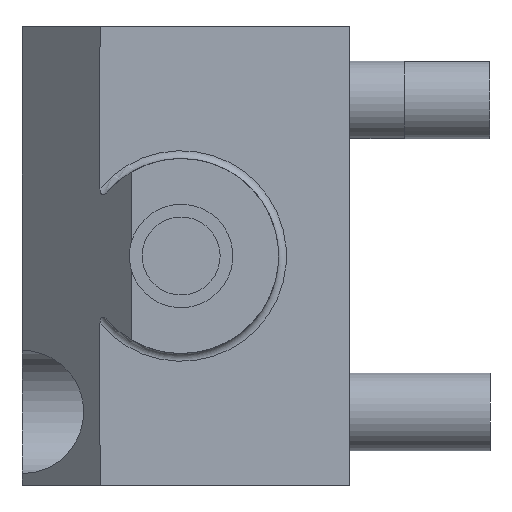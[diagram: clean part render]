
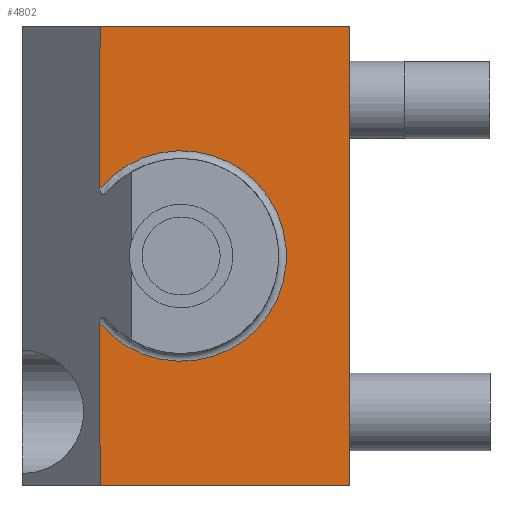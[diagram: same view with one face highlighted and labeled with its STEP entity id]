
A CAD part, left-side view. The second image highlights one B-rep face of the part: STEP entity #4802.
In plain terms, the highlighted planar face has unit normal (-1, 0, 0).
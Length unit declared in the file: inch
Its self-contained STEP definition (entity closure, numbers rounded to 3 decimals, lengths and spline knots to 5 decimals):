
#1 = CARTESIAN_POINT ( 'NONE',  ( -0.85, 0.26, -0.21519 ) ) ;
#31 = DIRECTION ( 'NONE',  ( -1., 0., 0. ) ) ;
#75 = VERTEX_POINT ( 'NONE', #683 ) ;
#162 = LINE ( 'NONE', #5245, #4239 ) ;
#259 = CARTESIAN_POINT ( 'NONE',  ( -0.85, 0.51, -0.735 ) ) ;
#276 = EDGE_CURVE ( 'NONE', #3061, #75, #162, .T. ) ;
#541 = AXIS2_PLACEMENT_3D ( 'NONE', #3320, #1420, #3288 ) ;
#675 = EDGE_CURVE ( 'NONE', #740, #1514, #1088, .T. ) ;
#683 = CARTESIAN_POINT ( 'NONE',  ( -0.85, -0.54, 0.735 ) ) ;
#689 = EDGE_LOOP ( 'NONE', ( #1028, #2485, #2203, #2812, #4976, #2497 ) ) ;
#693 = VERTEX_POINT ( 'NONE', #3194 ) ;
#740 = VERTEX_POINT ( 'NONE', #5432 ) ;
#741 = DIRECTION ( 'NONE',  ( 0., -1., 0. ) ) ;
#923 = CARTESIAN_POINT ( 'NONE',  ( -0.85, 0.26, -0.735 ) ) ;
#1018 = EDGE_CURVE ( 'NONE', #693, #1514, #1288, .T. ) ;
#1028 = ORIENTED_EDGE ( 'NONE', *, *, #1018, .F. ) ;
#1088 = CIRCLE ( 'NONE', #541, 0.3375 ) ;
#1288 = LINE ( 'NONE', #2234, #3022 ) ;
#1420 = DIRECTION ( 'NONE',  ( 1., 0., 0. ) ) ;
#1514 = VERTEX_POINT ( 'NONE', #1 ) ;
#2192 = CARTESIAN_POINT ( 'NONE',  ( -0.85, 0.51, -0.735 ) ) ;
#2203 = ORIENTED_EDGE ( 'NONE', *, *, #4869, .T. ) ;
#2234 = CARTESIAN_POINT ( 'NONE',  ( -0.85, 0.26, -0.735 ) ) ;
#2365 = CARTESIAN_POINT ( 'NONE',  ( -0.85, -0.54, -0.735 ) ) ;
#2379 = VECTOR ( 'NONE', #741, 39.37008 ) ;
#2485 = ORIENTED_EDGE ( 'NONE', *, *, #2929, .T. ) ;
#2497 = ORIENTED_EDGE ( 'NONE', *, *, #675, .T. ) ;
#2601 = AXIS2_PLACEMENT_3D ( 'NONE', #2192, #31, #3180 ) ;
#2730 = DIRECTION ( 'NONE',  ( 0., 0., 1. ) ) ;
#2801 = CARTESIAN_POINT ( 'NONE',  ( -0.85, -0.54, -0.735 ) ) ;
#2812 = ORIENTED_EDGE ( 'NONE', *, *, #276, .F. ) ;
#2929 = EDGE_CURVE ( 'NONE', #693, #4262, #3451, .T. ) ;
#3022 = VECTOR ( 'NONE', #2730, 39.37008 ) ;
#3061 = VERTEX_POINT ( 'NONE', #3957 ) ;
#3180 = DIRECTION ( 'NONE',  ( 0., -1., 0. ) ) ;
#3194 = CARTESIAN_POINT ( 'NONE',  ( -0.85, 0.26, -0.735 ) ) ;
#3288 = DIRECTION ( 'NONE',  ( 0., -1., 0. ) ) ;
#3320 = CARTESIAN_POINT ( 'NONE',  ( -0.85, 0., 0. ) ) ;
#3399 = EDGE_CURVE ( 'NONE', #740, #3061, #3608, .T. ) ;
#3451 = LINE ( 'NONE', #259, #2379 ) ;
#3608 = LINE ( 'NONE', #923, #3689 ) ;
#3689 = VECTOR ( 'NONE', #5373, 39.37008 ) ;
#3793 = LINE ( 'NONE', #2801, #5379 ) ;
#3957 = CARTESIAN_POINT ( 'NONE',  ( -0.85, 0.26, 0.735 ) ) ;
#4239 = VECTOR ( 'NONE', #4739, 39.37008 ) ;
#4262 = VERTEX_POINT ( 'NONE', #2365 ) ;
#4391 = PLANE ( 'NONE',  #2601 ) ;
#4739 = DIRECTION ( 'NONE',  ( 0., -1., 0. ) ) ;
#4802 = ADVANCED_FACE ( 'NONE', ( #5389 ), #4391, .T. ) ;
#4869 = EDGE_CURVE ( 'NONE', #4262, #75, #3793, .T. ) ;
#4976 = ORIENTED_EDGE ( 'NONE', *, *, #3399, .F. ) ;
#5245 = CARTESIAN_POINT ( 'NONE',  ( -0.85, 0.51, 0.735 ) ) ;
#5373 = DIRECTION ( 'NONE',  ( 0., 0., 1. ) ) ;
#5379 = VECTOR ( 'NONE', #5478, 39.37008 ) ;
#5389 = FACE_OUTER_BOUND ( 'NONE', #689, .T. ) ;
#5432 = CARTESIAN_POINT ( 'NONE',  ( -0.85, 0.26, 0.21519 ) ) ;
#5478 = DIRECTION ( 'NONE',  ( 0., 0., 1. ) ) ;
